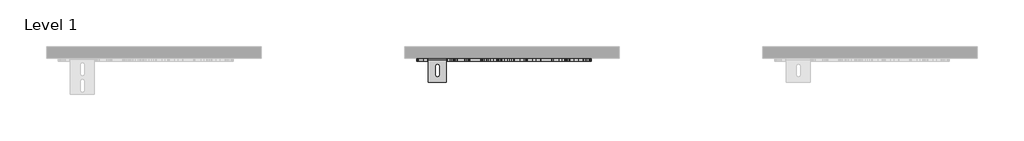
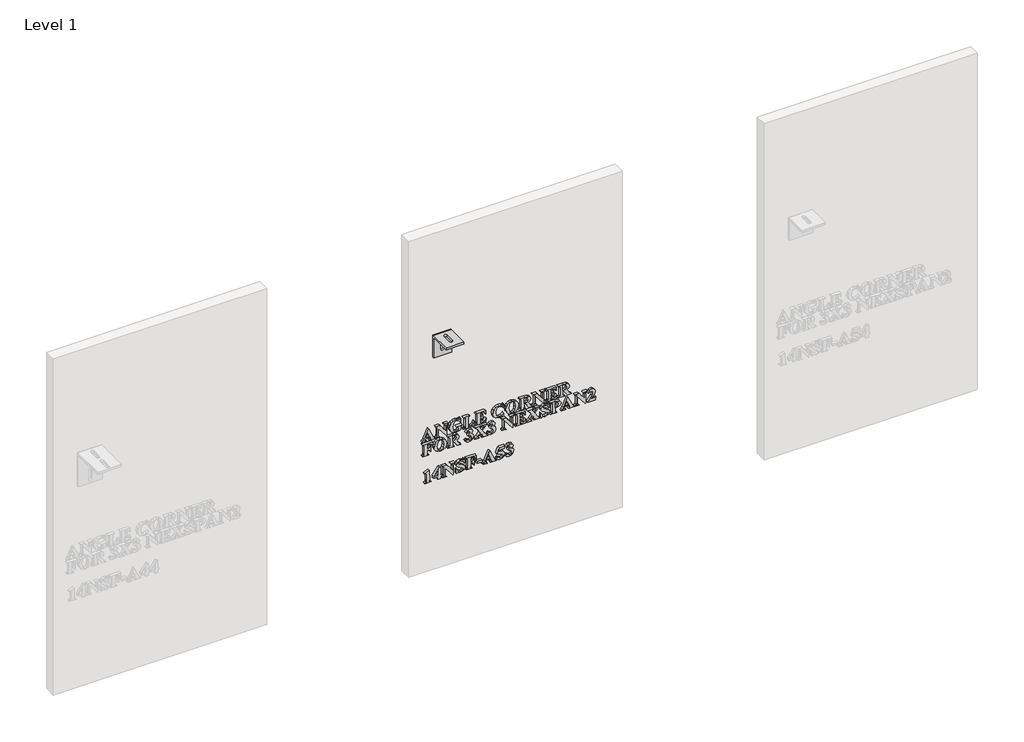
# One storey, part 9 of 21: 3 proxies.
"""IFC4 building model written with IfcOpenShell, lengths in millimetres."""

from ifc_helpers import new_model, si_unit, frame, origin, place, context, project, spatial, polyline, outline, extrude, transform, mapped, element, save
from components import generic_models_a543b304

model = new_model("IFC4")

# Units and contexts
model_context = context("Model", 3, world=origin())
ifc_project = project(units=[si_unit("LENGTHUNIT", "METRE", prefix="MILLI")], contexts=[model_context])

# Site, building, storey
site = spatial("IfcSite", under=ifc_project)
building = spatial("IfcBuilding", under=site)
storey = spatial("IfcBuildingStorey", under=building, Name="Level 1", Elevation=0.0)

# Proxies
placement = place(None, origin())
element("IfcBuildingElementProxy", 1, Name="2\"\" Arial", ObjectType="2\"\" Arial", at=placement, inside=storey, context=model_context, shape_type="SweptSolid", body=[
    extrude(outline(polyline([(615.3485426, 11534.1620487), (608.7003734, 11537.0844731), (604.559118, 11538.4695083), (602.869375, 11537.6246368), (602.0522042, 11532.3061015), (600.2793591, 11532.3061015), (600.2793591, 11557.7076479), (602.0522042, 11557.7076479), (603.4095388, 11554.0096038), (610.9025794, 11549.577491), (653.4647125, 11529.9238409), (612.066009, 11511.1012119), (604.3375124, 11506.6344732), (602.0522042, 11502.0153807), (600.2793591, 11502.0153807), (600.2793591, 11519.7853829), (602.0522042, 11519.7853829), (602.9386268, 11514.6607525), (606.0272554, 11512.8879074), (610.0300072, 11513.9682349), (615.3485426, 11516.3781962), (615.3485426, 11534.1620487)]), holes=[polyline([(618.8942328, 11532.6108092), (618.8942328, 11517.9848371), (635.2376487, 11525.3947756), (618.8942328, 11532.6108092)])]), frame((0.0, -15490.3579358, 0.0), z_axis=(0.0, 1.0, 0.0), x_axis=(0.0, 0.0, 1.0)), (0.0, 0.0, 1.0), 12.7),
    extrude(outline(polyline([(652.5782899, 11577.6798561), (652.5782899, 11559.2588873), (650.8054448, 11559.2588873), (650.2029545, 11562.9223056), (647.0519993, 11566.5718734), (609.1435847, 11566.5718734), (603.693471, 11565.0137088), (602.0522042, 11559.480493), (600.2793591, 11559.480493), (600.2793591, 11577.2089441), (602.0522042, 11576.1147663), (603.5134164, 11571.938885), (609.1435847, 11570.1175637), (642.5506348, 11570.1175637), (599.3929366, 11603.9401243), (599.3929366, 11605.5744659), (641.9412193, 11605.5744659), (647.3774826, 11606.2323577), (649.6627907, 11608.0675294), (650.8054448, 11612.6658464), (652.5782899, 11612.6658464), (652.5782899, 11594.9373952), (650.8054448, 11594.9373952), (648.5616877, 11600.7683936), (641.9412193, 11602.0287757), (621.5119494, 11602.0287757), (652.5782899, 11577.6798561)])), frame((0.0, -15490.3579358, 0.0), z_axis=(0.0, 1.0, 0.0), x_axis=(0.0, 0.0, 1.0)), (0.0, 0.0, 1.0), 12.7),
    extrude(outline(polyline([(653.4647125, 11667.6240449), (653.4647125, 11665.8511997), (650.6600161, 11664.2237833), (649.9190223, 11662.2916592), (651.2625064, 11657.9841996), (652.896848, 11652.7072153), (653.4647125, 11645.975944), (651.4564114, 11634.9285566), (645.4315081, 11625.9414092), (636.4945682, 11619.9736386), (625.7501572, 11617.9843817), (613.9773577, 11620.6020983), (606.6505212, 11626.287668), (601.3943125, 11634.6809816), (599.3929366, 11646.6546113), (600.4663389, 11657.5271379), (603.6449948, 11667.6240449), (615.3485426, 11667.6240449), (618.3402187, 11667.9703037), (620.002261, 11669.750074), (620.6670779, 11673.8290028), (622.439923, 11673.8290028), (622.439923, 11648.1227486), (620.6670779, 11649.5354846), (620.0576624, 11652.9288209), (618.6864775, 11654.7709178), (615.3485426, 11655.2141291), (603.6449948, 11655.2141291), (602.4607896, 11651.4329829), (602.0522042, 11647.8457416), (604.7114719, 11639.1269447), (613.0355337, 11633.8153345), (626.2210692, 11632.1671426), (638.3193521, 11633.6837562), (647.5090609, 11638.8499377), (650.8054448, 11647.9980954), (646.961972, 11658.5866899), (635.7362614, 11665.8511997), (635.7362614, 11667.6240449), (653.4647125, 11667.6240449)])), frame((0.0, -15490.3579358, 0.0), z_axis=(0.0, 1.0, 0.0), x_axis=(0.0, 0.0, 1.0)), (0.0, 0.0, 1.0), 12.7),
    extrude(outline(polyline([(619.7806553, 11726.1279336), (619.7806553, 11724.3550885), (610.1269597, 11720.5600919), (605.3416629, 11715.809421), (603.8250493, 11708.9396462), (603.8250493, 11704.6321866), (604.1713081, 11700.0200192), (605.7848742, 11698.2194734), (610.8333277, 11697.7624118), (643.7140644, 11697.7624118), (648.298531, 11698.1363713), (650.0436754, 11699.5491072), (650.8054448, 11702.8177904), (650.8054448, 11704.8537922), (652.5782899, 11704.8537922), (652.5782899, 11678.2611155), (650.8054448, 11678.2611155), (650.8054448, 11679.9370082), (650.0990768, 11683.2887935), (648.4439597, 11684.9439106), (643.7140644, 11685.352496), (609.1435847, 11685.352496), (604.559118, 11684.9508358), (602.8139736, 11683.4549977), (602.0522042, 11679.9370082), (602.0522042, 11678.2611155), (600.2793591, 11678.2611155), (600.2793591, 11724.3550885), (619.7806553, 11726.1279336)])), frame((0.0, -15490.3579358, 0.0), z_axis=(0.0, 1.0, 0.0), x_axis=(0.0, 0.0, 1.0)), (0.0, 0.0, 1.0), 12.7),
    extrude(outline(polyline([(649.0325997, 11750.0613426), (649.0325997, 11754.4934554), (648.3400821, 11762.5266598), (644.7320653, 11768.2191546), (636.6226839, 11771.3354839), (636.6226839, 11773.1083291), (652.5782899, 11773.1083291), (652.5782899, 11730.5600464), (650.8054448, 11730.5600464), (650.8054448, 11732.235939), (649.7805187, 11736.086337), (647.827619, 11737.4713722), (643.7140644, 11737.6514268), (609.1435847, 11737.6514268), (604.559118, 11737.2497666), (602.8139736, 11735.7539285), (602.0522042, 11732.235939), (602.0522042, 11730.5600464), (600.2793591, 11730.5600464), (600.2793591, 11774.3687111), (616.8859317, 11775.3105351), (606.4427659, 11769.1956045), (602.9386268, 11757.8729414), (602.9386268, 11754.8535645), (603.5549675, 11751.7372352), (605.1339076, 11750.4145266), (610.4039667, 11750.0613426), (625.0991907, 11750.0613426), (624.0950401, 11755.068245), (620.1753904, 11758.1014722), (612.6892749, 11759.8119907), (612.6892749, 11761.5848358), (640.1683741, 11761.5848358), (640.1683741, 11759.8119907), (630.9024884, 11757.3050769), (627.7584584, 11750.0613426), (649.0325997, 11750.0613426)])), frame((0.0, -15490.3579358, 0.0), z_axis=(0.0, 1.0, 0.0), x_axis=(0.0, 0.0, 1.0)), (0.0, 0.0, 1.0), 12.7),
    extrude(outline(polyline([(653.4647125, 11851.9999366), (653.4647125, 11850.2270915), (650.7708189, 11849.0775122), (649.9190223, 11846.986109), (651.2209554, 11842.5816969), (653.4647125, 11831.1967072), (649.8012943, 11817.394831), (639.5035572, 11807.0693933), (625.4731502, 11803.246696), (612.2460636, 11806.7162093), (602.710096, 11816.570735), (599.3929366, 11831.1828569), (601.4220132, 11842.1107849), (607.9663047, 11851.113514), (612.4676693, 11851.113514), (605.0785062, 11842.740976), (602.9386268, 11833.9944784), (605.854126, 11824.5208373), (614.4551948, 11819.1469006), (627.0797911, 11817.4294569), (639.8636664, 11819.7563161), (647.1420266, 11825.490362), (649.9190223, 11834.1052812), (646.2625292, 11844.1675623), (635.7362614, 11850.2270915), (635.7362614, 11851.9999366), (653.4647125, 11851.9999366)])), frame((0.0, -15490.3579358, 0.0), z_axis=(0.0, 1.0, 0.0), x_axis=(0.0, 0.0, 1.0)), (0.0, 0.0, 1.0), 12.7),
    extrude(outline(polyline([(653.4647125, 11887.11058), (651.8788471, 11876.5687305), (646.1794271, 11867.8239642), (637.4606302, 11861.9392957), (626.8166344, 11859.9777396), (617.1733265, 11861.4839654), (608.9358294, 11866.0026429), (601.7786598, 11875.2200524), (599.3929366, 11887.6091927), (601.8929252, 11899.9671697), (609.392891, 11909.1741915), (626.8581854, 11914.9359381), (637.4969874, 11913.0038139), (646.2002026, 11907.2074414), (651.884041, 11898.3189777), (653.4647125, 11887.11058)]), holes=[polyline([(650.8054448, 11887.5676416), (648.6863409, 11894.1811849), (641.4356814, 11898.9041551), (625.9440622, 11900.7531772), (611.8444034, 11898.938781), (603.9774032, 11893.869552), (602.0522042, 11887.4983899), (606.5120177, 11878.6757154), (626.2487699, 11874.1605005), (643.4924587, 11877.0829248), (648.9771983, 11881.5046499), (650.8054448, 11887.5676416)])]), frame((0.0, -15490.3579358, 0.0), z_axis=(0.0, 1.0, 0.0), x_axis=(0.0, 0.0, 1.0)), (0.0, 0.0, 1.0), 12.7),
    extrude(outline(polyline([(624.2127681, 11938.8693471), (624.2127681, 11942.3042345), (600.2793591, 11959.0908617), (600.2793591, 11975.2126719), (602.0522042, 11975.2126719), (603.3956884, 11971.9439887), (607.7723998, 11968.7999587), (625.4592998, 11956.3900429), (628.9911397, 11963.3429199), (638.395529, 11967.2348689), (646.5326111, 11964.4717236), (651.2902072, 11957.3387921), (652.5782899, 11943.5369159), (652.5782899, 11919.3680509), (650.8054448, 11919.3680509), (650.2029545, 11924.1533476), (648.5963136, 11925.9469683), (643.7140644, 11926.4594313), (609.1435847, 11926.4594313), (604.2751858, 11925.9469683), (602.6685449, 11924.1741232), (602.0522042, 11919.3680509), (600.2793591, 11919.3680509), (600.2793591, 11945.9607275), (602.0522042, 11945.9607275), (602.6546946, 11941.1754308), (604.2613354, 11939.3818101), (609.1435847, 11938.8693471), (624.2127681, 11938.8693471)]), holes=[polyline([(649.9190223, 11938.8693471), (649.9190223, 11942.9967521), (647.0450741, 11952.0271819), (638.160073, 11954.8249531), (631.4288018, 11953.3014143), (627.862336, 11949.1116827), (626.8720358, 11941.0715531), (626.8720358, 11938.8693471), (649.9190223, 11938.8693471)])]), frame((0.0, -15490.3579358, 0.0), z_axis=(0.0, 1.0, 0.0), x_axis=(0.0, 0.0, 1.0)), (0.0, 0.0, 1.0), 12.7),
    extrude(outline(polyline([(652.5782899, 11994.2984576), (652.5782899, 11975.8774888), (650.8054448, 11975.8774888), (650.2029545, 11979.540907), (647.0519993, 11983.1904749), (609.1435847, 11983.1904749), (603.693471, 11981.6323103), (602.0522042, 11976.0990945), (600.2793591, 11976.0990945), (600.2793591, 11993.8275456), (602.0522042, 11992.7333677), (603.5134164, 11988.5574865), (609.1435847, 11986.7361651), (642.5506348, 11986.7361651), (599.3929366, 12020.5587258), (599.3929366, 12022.1930674), (641.9412193, 12022.1930674), (647.3774826, 12022.8509591), (649.6627907, 12024.6861308), (650.8054448, 12029.2844478), (652.5782899, 12029.2844478), (652.5782899, 12011.5559967), (650.8054448, 12011.5559967), (648.5616877, 12017.3869951), (641.9412193, 12018.6473772), (621.5119494, 12018.6473772), (652.5782899, 11994.2984576)])), frame((0.0, -15490.3579358, 0.0), z_axis=(0.0, 1.0, 0.0), x_axis=(0.0, 0.0, 1.0)), (0.0, 0.0, 1.0), 12.7),
    extrude(outline(polyline([(649.0325997, 12053.2178569), (649.0325997, 12057.6499696), (648.3400821, 12065.6831741), (644.7320653, 12071.3756689), (636.6226839, 12074.4919982), (636.6226839, 12076.2648433), (652.5782899, 12076.2648433), (652.5782899, 12033.7165606), (650.8054448, 12033.7165606), (650.8054448, 12035.3924533), (649.7805187, 12039.2428513), (647.827619, 12040.6278865), (643.7140644, 12040.8079411), (609.1435847, 12040.8079411), (604.559118, 12040.4062809), (602.8139736, 12038.9104428), (602.0522042, 12035.3924533), (602.0522042, 12033.7165606), (600.2793591, 12033.7165606), (600.2793591, 12077.5252254), (616.8859317, 12078.4670494), (606.4427659, 12072.3521188), (602.9386268, 12061.0294556), (602.9386268, 12058.0100788), (603.5549675, 12054.8937495), (605.1339076, 12053.5710409), (610.4039667, 12053.2178569), (625.0991907, 12053.2178569), (624.0950401, 12058.2247593), (620.1753904, 12061.2579865), (612.6892749, 12062.968505), (612.6892749, 12064.7413501), (640.1683741, 12064.7413501), (640.1683741, 12062.968505), (630.9024884, 12060.4615912), (627.7584584, 12053.2178569), (649.0325997, 12053.2178569)])), frame((0.0, -15490.3579358, 0.0), z_axis=(0.0, 1.0, 0.0), x_axis=(0.0, 0.0, 1.0)), (0.0, 0.0, 1.0), 12.7),
    extrude(outline(polyline([(624.2127681, 12104.6303651), (624.2127681, 12108.0652525), (600.2793591, 12124.8518797), (600.2793591, 12140.9736899), (602.0522042, 12140.9736899), (603.3956884, 12137.7050068), (607.7723998, 12134.5609768), (625.4592998, 12122.151061), (628.9911397, 12129.1039379), (638.395529, 12132.9958869), (646.5326111, 12130.2327416), (651.2902072, 12123.0998101), (652.5782899, 12109.2979339), (652.5782899, 12085.1290689), (650.8054448, 12085.1290689), (650.2029545, 12089.9143657), (648.5963136, 12091.7079863), (643.7140644, 12092.2204493), (609.1435847, 12092.2204493), (604.2751858, 12091.7079863), (602.6685449, 12089.9351412), (602.0522042, 12085.1290689), (600.2793591, 12085.1290689), (600.2793591, 12111.7217456), (602.0522042, 12111.7217456), (602.6546946, 12106.9364488), (604.2613354, 12105.1428282), (609.1435847, 12104.6303651), (624.2127681, 12104.6303651)]), holes=[polyline([(649.9190223, 12104.6303651), (649.9190223, 12108.7577702), (647.0450741, 12117.7882), (638.160073, 12120.5859711), (631.4288018, 12119.0624324), (627.862336, 12114.8727008), (626.8720358, 12106.8325712), (626.8720358, 12104.6303651), (649.9190223, 12104.6303651)])]), frame((0.0, -15490.3579358, 0.0), z_axis=(0.0, 1.0, 0.0), x_axis=(0.0, 0.0, 1.0)), (0.0, 0.0, 1.0), 12.7),
    extrude(outline(polyline([(584.9362614, 11523.1371682), (584.9362614, 11527.569281), (584.3406962, 11536.1287988), (580.6288018, 11542.5415119), (572.5263456, 11545.2977321), (572.5263456, 11547.0705772), (588.4819516, 11547.0705772), (588.4819516, 11503.6358719), (586.7091065, 11503.6358719), (586.7091065, 11505.3117646), (586.0027385, 11508.6635499), (584.3476214, 11510.318667), (579.617726, 11510.7272524), (545.0472463, 11510.7272524), (540.4627797, 11510.3255922), (538.7176353, 11508.8297541), (537.9558659, 11505.3117646), (537.9558659, 11503.6358719), (536.1830208, 11503.6358719), (536.1830208, 11530.2285486), (537.9558659, 11530.2285486), (537.9558659, 11528.5665063), (538.6622338, 11525.2216462), (540.317351, 11523.5596039), (545.0472463, 11523.1371682), (561.0028523, 11523.1371682), (561.0028523, 11524.9100133), (558.5859658, 11531.8213392), (548.5929366, 11535.547084), (548.5929366, 11537.3199291), (576.9584584, 11537.3199291), (576.9584584, 11535.547084), (569.5762205, 11533.6911367), (565.6981218, 11530.2077731), (564.5485426, 11524.9100133), (564.5485426, 11523.1371682), (584.9362614, 11523.1371682)])), frame((0.0, -15490.3579358, 0.0), z_axis=(0.0, 1.0, 0.0), x_axis=(0.0, 0.0, 1.0)), (0.0, 0.0, 1.0), 12.7),
    extrude(outline(polyline([(589.3683741, 11579.521953), (587.7825088, 11568.9801035), (582.0830888, 11560.2353372), (573.3642919, 11554.3506687), (562.720296, 11552.3891125), (553.0769882, 11553.8953384), (544.839491, 11558.4140158), (537.6823214, 11567.6314254), (535.2965982, 11580.0205657), (537.7965868, 11592.3785426), (545.2965527, 11601.5855644), (562.7618471, 11607.347311), (573.4006491, 11605.4151869), (582.1038643, 11599.6188144), (587.7877027, 11590.7303507), (589.3683741, 11579.521953)]), holes=[polyline([(586.7091065, 11579.9790146), (584.5900026, 11586.5925579), (577.339343, 11591.3155281), (561.8477238, 11593.1645501), (547.7480651, 11591.350154), (539.8810649, 11586.280925), (537.9558659, 11579.9097628), (542.4156794, 11571.0870883), (562.1524316, 11566.5718734), (579.3961204, 11569.4942978), (584.88086, 11573.9160228), (586.7091065, 11579.9790146)])]), frame((0.0, -15490.3579358, 0.0), z_axis=(0.0, 1.0, 0.0), x_axis=(0.0, 0.0, 1.0)), (0.0, 0.0, 1.0), 12.7),
    extrude(outline(polyline([(560.1164298, 11631.28072), (560.1164298, 11634.7156075), (536.1830208, 11651.5022346), (536.1830208, 11667.6240449), (537.9558659, 11667.6240449), (539.2993501, 11664.3553617), (543.6760614, 11661.2113317), (561.3629615, 11648.8014159), (564.8948014, 11655.7542928), (574.2991907, 11659.6462418), (582.4362727, 11656.8830965), (587.1938688, 11649.750165), (588.4819516, 11635.9482888), (588.4819516, 11611.7794238), (586.7091065, 11611.7794238), (586.1066161, 11616.5647206), (584.4999753, 11618.3583412), (579.617726, 11618.8708043), (545.0472463, 11618.8708043), (540.1788474, 11618.3583412), (538.5722066, 11616.5854961), (537.9558659, 11611.7794238), (536.1830208, 11611.7794238), (536.1830208, 11638.3721005), (537.9558659, 11638.3721005), (538.5583562, 11633.5868037), (540.1649971, 11631.7931831), (545.0472463, 11631.28072), (560.1164298, 11631.28072)]), holes=[polyline([(585.8226839, 11631.28072), (585.8226839, 11635.4081251), (582.9487358, 11644.4385549), (574.0637347, 11647.2363261), (567.3324634, 11645.7127873), (563.7659977, 11641.5230557), (562.7756975, 11633.4829261), (562.7756975, 11631.28072), (585.8226839, 11631.28072)])]), frame((0.0, -15490.3579358, 0.0), z_axis=(0.0, 1.0, 0.0), x_axis=(0.0, 0.0, 1.0)), (0.0, 0.0, 1.0), 12.7),
    extrude(outline(polyline([(564.5485426, 11696.8759892), (558.3782106, 11708.7665168), (548.6206373, 11712.8315952), (542.8796662, 11710.7263417), (540.6151335, 11705.6848134), (543.7314628, 11698.4272287), (547.1524999, 11693.9258641), (547.706514, 11691.4605014), (546.2176011, 11688.4341994), (542.6234346, 11687.1253411), (537.9004645, 11689.3829485), (535.2965982, 11699.3275016), (536.8114805, 11708.5033601), (541.3561274, 11715.6155161), (548.0648919, 11720.1757446), (556.0721269, 11721.6958208), (564.6177943, 11718.8564985), (570.3518402, 11710.6155388), (574.5554222, 11717.0005513), (579.5207736, 11719.0365531), (586.4182491, 11715.4008356), (589.3683741, 11706.1695757), (586.9237869, 11696.2180975), (579.105263, 11689.7846088), (584.0498388, 11699.1751477), (581.6883537, 11705.1238741), (576.0304847, 11707.5130599), (571.3282901, 11706.2319023), (567.8795523, 11703.1917499), (564.5485426, 11696.8759892)])), frame((0.0, -15490.3579358, 0.0), z_axis=(0.0, 1.0, 0.0), x_axis=(0.0, 0.0, 1.0)), (0.0, 0.0, 1.0), 12.7),
    extrude(outline(polyline([(566.5845444, 11759.2302759), (578.4681468, 11768.7177673), (584.2021927, 11773.7315949), (586.1481672, 11776.6955703), (586.7091065, 11780.3520634), (588.4819516, 11780.3520634), (588.4819516, 11760.9200189), (586.7091065, 11760.9200189), (586.2243441, 11764.382607), (584.88086, 11766.1000507), (583.0110624, 11766.6956159), (575.9473826, 11762.457408), (569.5069687, 11757.3050769), (579.146814, 11750.9754659), (584.3406962, 11748.0530415), (586.0304392, 11748.939464), (586.7091065, 11753.3577265), (588.4819516, 11753.3577265), (588.4819516, 11727.8176766), (586.7091065, 11727.8176766), (585.9334867, 11730.5877471), (584.2021927, 11732.6237489), (579.0775623, 11736.363344), (559.4377625, 11749.2718725), (546.8616425, 11739.2026663), (539.7425613, 11732.000483), (537.9558659, 11726.6126959), (536.1830208, 11726.6126959), (536.1830208, 11746.9588636), (537.9558659, 11746.9588636), (538.1774715, 11743.6486294), (539.4655543, 11740.9131848), (541.4046036, 11739.9921364), (547.000146, 11743.5655273), (556.5291885, 11751.1832211), (545.781315, 11758.2469009), (540.4627797, 11761.2108763), (538.8422884, 11760.3244538), (537.9558659, 11756.404804), (536.1830208, 11756.404804), (536.1830208, 11781.6955476), (537.9558659, 11781.6955476), (539.2993501, 11778.0944559), (545.6428115, 11772.9836759), (566.5845444, 11759.2302759)])), frame((0.0, -15490.3579358, 0.0), z_axis=(0.0, 1.0, 0.0), x_axis=(0.0, 0.0, 1.0)), (0.0, 0.0, 1.0), 12.7),
    extrude(outline(polyline([(564.5485426, 11792.6096253), (558.3782106, 11804.5001529), (548.6206373, 11808.5652313), (542.8796662, 11806.4599777), (540.6151335, 11801.4184495), (543.7314628, 11794.1608648), (547.1524999, 11789.6595002), (547.706514, 11787.1941375), (546.2176011, 11784.1678355), (542.6234346, 11782.8589772), (537.9004645, 11785.1165846), (535.2965982, 11795.0611377), (536.8114805, 11804.2369962), (541.3561274, 11811.3491522), (548.0648919, 11815.9093807), (556.0721269, 11817.4294569), (564.6177943, 11814.5901346), (570.3518402, 11806.3491749), (574.5554222, 11812.7341874), (579.5207736, 11814.7701892), (586.4182491, 11811.1344717), (589.3683741, 11801.9032118), (586.9237869, 11791.9517336), (579.105263, 11785.5182448), (584.0498388, 11794.9087838), (581.6883537, 11800.8575102), (576.0304847, 11803.246696), (571.3282901, 11801.9655384), (567.8795523, 11798.925386), (564.5485426, 11792.6096253)])), frame((0.0, -15490.3579358, 0.0), z_axis=(0.0, 1.0, 0.0), x_axis=(0.0, 0.0, 1.0)), (0.0, 0.0, 1.0), 12.7),
    extrude(outline(polyline([(588.4819516, 11861.3350741), (588.4819516, 11842.9141054), (586.7091065, 11842.9141054), (586.1066161, 11846.5775236), (582.955661, 11850.2270915), (545.0472463, 11850.2270915), (539.5971326, 11848.6689268), (537.9558659, 11843.135711), (536.1830208, 11843.135711), (536.1830208, 11860.8641621), (537.9558659, 11859.7699843), (539.4170781, 11855.594103), (545.0472463, 11853.7727817), (578.4542964, 11853.7727817), (535.2965982, 11887.5953424), (535.2965982, 11889.2296839), (577.8448809, 11889.2296839), (583.2811442, 11889.8875757), (585.5664524, 11891.7227474), (586.7091065, 11896.3210644), (588.4819516, 11896.3210644), (588.4819516, 11878.5926133), (586.7091065, 11878.5926133), (584.4653494, 11884.4236116), (577.8448809, 11885.6839937), (557.4156111, 11885.6839937), (588.4819516, 11861.3350741)])), frame((0.0, -15490.3579358, 0.0), z_axis=(0.0, 1.0, 0.0), x_axis=(0.0, 0.0, 1.0)), (0.0, 0.0, 1.0), 12.7),
    extrude(outline(polyline([(584.9362614, 11920.2544734), (584.9362614, 11924.6865862), (584.2437437, 11932.7197906), (580.6357269, 11938.4122855), (572.5263456, 11941.5286148), (572.5263456, 11943.3014599), (588.4819516, 11943.3014599), (588.4819516, 11900.7531772), (586.7091065, 11900.7531772), (586.7091065, 11902.4290698), (585.6841804, 11906.2794678), (583.7312807, 11907.664503), (579.617726, 11907.8445576), (545.0472463, 11907.8445576), (540.4627797, 11907.4428974), (538.7176353, 11905.9470593), (537.9558659, 11902.4290698), (537.9558659, 11900.7531772), (536.1830208, 11900.7531772), (536.1830208, 11944.561842), (552.7895933, 11945.5036659), (542.3464276, 11939.3887353), (538.8422884, 11928.0660722), (538.8422884, 11925.0466954), (539.4586291, 11921.9303661), (541.0375693, 11920.6076574), (546.3076284, 11920.2544734), (561.0028523, 11920.2544734), (559.9987018, 11925.2613758), (556.079052, 11928.294603), (548.5929366, 11930.0051215), (548.5929366, 11931.7779666), (576.0720358, 11931.7779666), (576.0720358, 11930.0051215), (566.80615, 11927.4982077), (563.66212, 11920.2544734), (584.9362614, 11920.2544734)])), frame((0.0, -15490.3579358, 0.0), z_axis=(0.0, 1.0, 0.0), x_axis=(0.0, 0.0, 1.0)), (0.0, 0.0, 1.0), 12.7),
    extrude(outline(polyline([(566.5845444, 11983.4951827), (578.4681468, 11992.9826741), (584.2021927, 11997.9965017), (586.1481672, 12000.9604771), (586.7091065, 12004.6169701), (588.4819516, 12004.6169701), (588.4819516, 11985.1849257), (586.7091065, 11985.1849257), (586.2243441, 11988.6475138), (584.88086, 11990.3649575), (583.0110624, 11990.9605226), (575.9473826, 11986.7223148), (569.5069687, 11981.5699837), (579.146814, 11975.2403726), (584.3406962, 11972.3179482), (586.0304392, 11973.2043708), (586.7091065, 11977.6226332), (588.4819516, 11977.6226332), (588.4819516, 11952.0825833), (586.7091065, 11952.0825833), (585.9334867, 11954.8526538), (584.2021927, 11956.8886556), (579.0775623, 11960.6282508), (559.4377625, 11973.5367793), (546.8616425, 11963.467573), (539.7425613, 11956.2653898), (537.9558659, 11950.8776027), (536.1830208, 11950.8776027), (536.1830208, 11971.2237704), (537.9558659, 11971.2237704), (538.1774715, 11967.9135362), (539.4655543, 11965.1780916), (541.4046036, 11964.2570431), (547.000146, 11967.8304341), (556.5291885, 11975.4481279), (545.781315, 11982.5118076), (540.4627797, 11985.4757831), (538.8422884, 11984.5893605), (537.9558659, 11980.6697108), (536.1830208, 11980.6697108), (536.1830208, 12005.9604543), (537.9558659, 12005.9604543), (539.2993501, 12002.3593627), (545.6428115, 11997.2485826), (566.5845444, 11983.4951827)])), frame((0.0, -15490.3579358, 0.0), z_axis=(0.0, 1.0, 0.0), x_axis=(0.0, 0.0, 1.0)), (0.0, 0.0, 1.0), 12.7),
    extrude(outline(polyline([(589.3683741, 12045.2400539), (589.3683741, 12043.4672087), (586.4320994, 12042.3591806), (585.8226839, 12040.724839), (587.0622905, 12036.9644683), (588.7589586, 12032.4146275), (589.3683741, 12027.3315481), (585.040139, 12015.3994695), (574.548497, 12010.6695742), (567.9418789, 12012.3039157), (562.5056156, 12016.9853349), (556.5984403, 12027.8301608), (552.5541373, 12035.5863582), (549.2854542, 12038.8481162), (545.7259136, 12039.9215185), (540.2896503, 12037.2553257), (537.9558659, 12030.0877683), (542.2702507, 12019.2360171), (554.7978944, 12012.4424193), (554.7978944, 12010.6695742), (535.2965982, 12010.6695742), (535.2965982, 12012.4424193), (537.9697162, 12014.2637406), (538.8422884, 12016.4036201), (537.9835666, 12019.464548), (535.8575375, 12025.0116141), (535.2965982, 12029.6999584), (539.9780173, 12042.7608408), (551.1691021, 12047.8993215), (560.2687837, 12045.2816049), (568.7174987, 12032.5946821), (573.2050128, 12023.4534495), (576.7645534, 12019.5337997), (579.8254813, 12018.6473772), (584.6246284, 12021.0711888), (586.7091065, 12027.6501063), (582.5747763, 12037.6639111), (571.639923, 12043.4672087), (571.639923, 12045.2400539), (589.3683741, 12045.2400539)])), frame((0.0, -15490.3579358, 0.0), z_axis=(0.0, 1.0, 0.0), x_axis=(0.0, 0.0, 1.0)), (0.0, 0.0, 1.0), 12.7),
    extrude(outline(polyline([(560.1164298, 12070.946308), (561.030553, 12084.2010953), (565.9266526, 12093.3354027), (574.5623474, 12096.6525621), (584.5069004, 12091.6041087), (588.4819516, 12074.9490598), (588.4819516, 12051.4450118), (586.7091065, 12051.4450118), (586.1066161, 12056.2303085), (584.4999753, 12058.0239292), (579.617726, 12058.5363922), (545.0472463, 12058.5363922), (540.1788474, 12058.0239292), (538.5722066, 12056.2510841), (537.9558659, 12051.4450118), (536.1830208, 12051.4450118), (536.1830208, 12078.0376884), (537.9558659, 12078.0376884), (538.5583562, 12073.266242), (540.1649971, 12071.458771), (545.0472463, 12070.946308), (560.1164298, 12070.946308)]), holes=[polyline([(585.8226839, 12070.946308), (585.8226839, 12072.7330035), (583.0664638, 12081.3548479), (574.3822928, 12084.2426463), (565.5457679, 12081.3548479), (562.6925953, 12073.1346637), (562.7756975, 12070.946308), (585.8226839, 12070.946308)])]), frame((0.0, -15490.3579358, 0.0), z_axis=(0.0, 1.0, 0.0), x_axis=(0.0, 0.0, 1.0)), (0.0, 0.0, 1.0), 12.7),
    extrude(outline(polyline([(551.2522042, 12130.7244291), (544.604035, 12133.6468535), (540.4627797, 12135.0318887), (538.7730367, 12134.1870172), (537.9558659, 12128.8684819), (536.1830208, 12128.8684819), (536.1830208, 12154.2700283), (537.9558659, 12154.2700283), (539.3132004, 12150.5719842), (546.8062411, 12146.1398714), (589.3683741, 12126.4862213), (547.9696707, 12107.6635923), (540.241174, 12103.1968537), (537.9558659, 12098.5777611), (536.1830208, 12098.5777611), (536.1830208, 12116.3477633), (537.9558659, 12116.3477633), (538.8422884, 12111.2231329), (541.930917, 12109.4502878), (545.9336689, 12110.5306153), (551.2522042, 12112.9405766), (551.2522042, 12130.7244291)]), holes=[polyline([(554.7978944, 12129.1731897), (554.7978944, 12114.5472175), (571.1413103, 12121.957156), (554.7978944, 12129.1731897)])]), frame((0.0, -15490.3579358, 0.0), z_axis=(0.0, 1.0, 0.0), x_axis=(0.0, 0.0, 1.0)), (0.0, 0.0, 1.0), 12.7),
    extrude(outline(polyline([(588.4819516, 12174.2422365), (588.4819516, 12155.8212678), (586.7091065, 12155.8212678), (586.1066161, 12159.484686), (582.955661, 12163.1342539), (545.0472463, 12163.1342539), (539.5971326, 12161.5760892), (537.9558659, 12156.0428734), (536.1830208, 12156.0428734), (536.1830208, 12173.7713245), (537.9558659, 12172.6771467), (539.4170781, 12168.5012654), (545.0472463, 12166.6799441), (578.4542964, 12166.6799441), (535.2965982, 12200.5025047), (535.2965982, 12202.1368463), (577.8448809, 12202.1368463), (583.2811442, 12202.7947381), (585.5664524, 12204.6299098), (586.7091065, 12209.2282268), (588.4819516, 12209.2282268), (588.4819516, 12191.4997757), (586.7091065, 12191.4997757), (584.4653494, 12197.330774), (577.8448809, 12198.5911561), (557.4156111, 12198.5911561), (588.4819516, 12174.2422365)])), frame((0.0, -15490.3579358, 0.0), z_axis=(0.0, 1.0, 0.0), x_axis=(0.0, 0.0, 1.0)), (0.0, 0.0, 1.0), 12.7),
    extrude(outline(polyline([(536.1830208, 12243.3139441), (551.2522042, 12244.9344354), (548.1635756, 12242.836107), (547.1247992, 12240.8001052), (546.8200914, 12235.446944), (546.8200914, 12224.2835599), (566.3906394, 12241.0009353), (576.6260499, 12243.7987065), (582.5609259, 12241.9081334), (587.5470528, 12236.6796253), (589.3683741, 12229.2973875), (585.864235, 12219.3043582), (574.548497, 12214.2836054), (579.0152357, 12218.4525615), (580.5041486, 12224.0342535), (577.8241054, 12230.5092933), (571.0997593, 12233.1616358), (559.7286199, 12230.0591569), (536.1830208, 12211.8874945), (536.1830208, 12243.3139441)])), frame((0.0, -15490.3579358, 0.0), z_axis=(0.0, 1.0, 0.0), x_axis=(0.0, 0.0, 1.0)), (0.0, 0.0, 1.0), 12.7),
])
element("IfcBuildingElementProxy", 2, Name="2\"\" Arial", ObjectType="2\"\" Arial", at=placement, inside=storey, context=model_context, shape_type="SweptSolid", body=[
    extrude(outline(polyline([(463.8692305, 11532.4026674), (455.0050049, 11512.6451396), (453.2321598, 11513.3099565), (454.4648412, 11517.8667225), (453.827725, 11519.9442753), (452.3111114, 11521.1769567), (447.9136245, 11521.5093652), (421.3209478, 11521.5093652), (415.2544934, 11520.9899769), (413.2046413, 11519.0024514), (412.4567222, 11512.6451396), (410.6838771, 11512.6451396), (410.6838771, 11541.0106614), (412.4567222, 11539.77798), (413.273893, 11535.3043162), (415.3791466, 11533.4691445), (421.3209478, 11533.0328584), (463.8692305, 11532.4026674)])), frame((0.0, -15490.3579358, 0.0), z_axis=(0.0, 1.0, 0.0), x_axis=(0.0, 0.0, 1.0)), (0.0, 0.0, 1.0), 12.7),
    extrude(outline(polyline([(430.1851733, 11549.874887), (422.2073703, 11549.874887), (422.2073703, 11568.4897607), (410.6838771, 11568.4897607), (410.6838771, 11580.0132539), (422.2073703, 11580.0132539), (422.2073703, 11584.4453667), (430.1851733, 11584.4453667), (430.1851733, 11580.0132539), (463.8692305, 11580.0132539), (463.8692305, 11574.9024738), (430.1851733, 11549.874887)]), holes=[polyline([(430.1851733, 11552.5618553), (451.6116686, 11568.4897607), (430.1851733, 11568.4897607), (430.1851733, 11552.5618553)])]), frame((0.0, -15490.3579358, 0.0), z_axis=(0.0, 1.0, 0.0), x_axis=(0.0, 0.0, 1.0)), (0.0, 0.0, 1.0), 12.7),
    extrude(outline(polyline([(462.9828079, 11607.0768426), (462.9828079, 11588.6558738), (461.2099628, 11588.6558738), (460.6074725, 11592.319292), (457.4565173, 11595.9688599), (419.5481027, 11595.9688599), (414.097989, 11594.4106952), (412.4567222, 11588.8774794), (410.6838771, 11588.8774794), (410.6838771, 11606.6059306), (412.4567222, 11605.5117527), (413.9179344, 11601.3358715), (419.5481027, 11599.5145501), (452.9551528, 11599.5145501), (409.7974546, 11633.3371108), (409.7974546, 11634.9714524), (452.3457373, 11634.9714524), (457.7820006, 11635.6293441), (460.0673087, 11637.4645158), (461.2099628, 11642.0628328), (462.9828079, 11642.0628328), (462.9828079, 11624.3343817), (461.2099628, 11624.3343817), (458.9662057, 11630.1653801), (452.3457373, 11631.4257622), (431.9164674, 11631.4257622), (462.9828079, 11607.0768426)])), frame((0.0, -15490.3579358, 0.0), z_axis=(0.0, 1.0, 0.0), x_axis=(0.0, 0.0, 1.0)), (0.0, 0.0, 1.0), 12.7),
    extrude(outline(polyline([(463.8692305, 11682.8382704), (463.8692305, 11681.0654253), (460.9329558, 11679.9573971), (460.3235403, 11678.3230555), (461.5631468, 11674.5626848), (463.259815, 11670.0128441), (463.8692305, 11664.9297647), (459.5409954, 11652.9976861), (449.0493534, 11648.2677907), (442.4427353, 11649.9021323), (437.0064719, 11654.5835514), (431.0992966, 11665.4283774), (427.0549937, 11673.1845748), (423.7863105, 11676.4463328), (420.2267699, 11677.5197351), (414.7905066, 11674.8535422), (412.4567222, 11667.6859848), (416.771107, 11656.8342337), (429.2987508, 11650.0406358), (429.2987508, 11648.2677907), (409.7974546, 11648.2677907), (409.7974546, 11650.0406358), (412.4705726, 11651.8619572), (413.3431448, 11654.0018366), (412.4844229, 11657.0627645), (410.3583938, 11662.6098307), (409.7974546, 11667.298175), (414.4788737, 11680.3590573), (425.6699585, 11685.4975381), (434.76964, 11682.8798215), (443.218355, 11670.1928986), (447.7058692, 11661.051666), (451.2654098, 11657.1320163), (454.3263377, 11656.2455937), (459.1254848, 11658.6694054), (461.2099628, 11665.2483228), (457.0756326, 11675.2621276), (446.1407794, 11681.0654253), (446.1407794, 11682.8382704), (463.8692305, 11682.8382704)])), frame((0.0, -15490.3579358, 0.0), z_axis=(0.0, 1.0, 0.0), x_axis=(0.0, 0.0, 1.0)), (0.0, 0.0, 1.0), 12.7),
    extrude(outline(polyline([(459.4371177, 11709.4309471), (459.4371177, 11713.8630599), (458.8415526, 11722.4225777), (455.1296581, 11728.8352909), (447.0272019, 11731.591511), (447.0272019, 11733.3643561), (462.9828079, 11733.3643561), (462.9828079, 11689.9296509), (461.2099628, 11689.9296509), (461.2099628, 11691.6055435), (460.5035948, 11694.9573288), (458.8484777, 11696.6124459), (454.1185824, 11697.0210313), (419.5481027, 11697.0210313), (414.963636, 11696.6193711), (413.2184916, 11695.123533), (412.4567222, 11691.6055435), (412.4567222, 11689.9296509), (410.6838771, 11689.9296509), (410.6838771, 11716.5223276), (412.4567222, 11716.5223276), (412.4567222, 11714.8602853), (413.1630902, 11711.5154252), (414.8182073, 11709.8533829), (419.5481027, 11709.4309471), (435.5037087, 11709.4309471), (435.5037087, 11711.2037922), (433.0868222, 11718.1151181), (423.0937929, 11721.8408629), (423.0937929, 11723.613708), (451.4593147, 11723.613708), (451.4593147, 11721.8408629), (444.0770768, 11719.9849157), (440.1989782, 11716.501552), (439.0493989, 11711.2037922), (439.0493989, 11709.4309471), (459.4371177, 11709.4309471)])), frame((0.0, -15490.3579358, 0.0), z_axis=(0.0, 1.0, 0.0), x_axis=(0.0, 0.0, 1.0)), (0.0, 0.0, 1.0), 12.7),
    extrude(outline(polyline([(11759.0706103, -15490.3579358), (11736.9100464, -15490.3579358), (11736.9100464, -15477.6579358), (11759.0706103, -15477.6579358), (11759.0706103, -15490.3579358)])), frame((0.0, 0.0, 424.866638), z_axis=(0.0, 0.0, 1.0), x_axis=(1.0, 0.0, 0.0)), (0.0, 0.0, 1.0), 7.977803),
    extrude(outline(polyline([(425.7530606, 11794.9153224), (419.1048914, 11797.8377468), (414.963636, 11799.222782), (413.273893, 11798.3779105), (412.4567222, 11793.0593752), (410.6838771, 11793.0593752), (410.6838771, 11818.4609215), (412.4567222, 11818.4609215), (413.8140568, 11814.7628774), (421.3070974, 11810.3307647), (463.8692305, 11790.6771145), (422.470527, 11771.8544856), (414.7420304, 11767.3877469), (412.4567222, 11762.7686544), (410.6838771, 11762.7686544), (410.6838771, 11780.5386566), (412.4567222, 11780.5386566), (413.3431448, 11775.4140261), (416.4317734, 11773.641181), (420.4345252, 11774.7215085), (425.7530606, 11777.1314699), (425.7530606, 11794.9153224)]), holes=[polyline([(429.2987508, 11793.3640829), (429.2987508, 11778.7381107), (445.6421667, 11786.1480493), (429.2987508, 11793.3640829)])]), frame((0.0, -15490.3579358, 0.0), z_axis=(0.0, 1.0, 0.0), x_axis=(0.0, 0.0, 1.0)), (0.0, 0.0, 1.0), 12.7),
    extrude(outline(polyline([(462.9828079, 11830.8708373), (436.3901312, 11821.1201892), (436.4316823, 11824.2919199), (432.2073248, 11841.7018129), (427.3527763, 11846.8749196), (421.2378457, 11848.5992885), (415.6630788, 11846.3278307), (413.3431448, 11840.8153904), (413.8417575, 11838.0591702), (416.2655691, 11833.9040645), (419.7697083, 11828.5024271), (420.4345252, 11825.3860978), (419.1395173, 11822.4013468), (416.1547663, 11821.1201892), (412.2351166, 11823.5717016), (409.7974546, 11833.6409078), (412.1104634, 11844.8112171), (419.0633403, 11852.7959452), (428.5646821, 11855.6906689), (435.5210216, 11854.142892), (441.2377546, 11849.4995614), (445.9953507, 11840.3721791), (447.9136245, 11828.0315151), (452.3457373, 11829.6520063), (452.3457373, 11852.1449787), (462.9828079, 11855.6906689), (462.9828079, 11830.8708373)])), frame((0.0, -15490.3579358, 0.0), z_axis=(0.0, 1.0, 0.0), x_axis=(0.0, 0.0, 1.0)), (0.0, 0.0, 1.0), 12.7),
    extrude(outline(polyline([(439.0493989, 11868.9870073), (432.8790669, 11880.8775348), (423.1214936, 11884.9426133), (417.3805225, 11882.8373597), (415.1159899, 11877.7958314), (418.2323192, 11870.5382467), (421.6533562, 11866.0368822), (422.2073703, 11863.5715194), (420.7184575, 11860.5452174), (417.124291, 11859.2363591), (412.4013208, 11861.4939666), (409.7974546, 11871.4385196), (411.3123369, 11880.6143781), (415.8569837, 11887.7265341), (422.5657482, 11892.2867626), (430.5729832, 11893.8068388), (439.1186507, 11890.9675166), (444.8526966, 11882.7265569), (449.0562786, 11889.1115694), (454.0216299, 11891.1475712), (460.9191054, 11887.5118536), (463.8692305, 11878.2805937), (461.4246433, 11868.3291155), (453.6061193, 11861.8956268), (458.5506952, 11871.2861658), (456.1892101, 11877.2348921), (450.5313411, 11879.6240779), (445.8291464, 11878.3429203), (442.3804087, 11875.302768), (439.0493989, 11868.9870073)])), frame((0.0, -15490.3579358, 0.0), z_axis=(0.0, 1.0, 0.0), x_axis=(0.0, 0.0, 1.0)), (0.0, 0.0, 1.0), 12.7),
])
generic_models_shape = generic_models_a543b304(model_context)
element("IfcBuildingElementProxy", 3, Name="14NSF-A53 : 14NSF-A53", ObjectType="14NSF-A53 : 14NSF-A53", at=placement, inside=storey, context=model_context, shape_type="MappedRepresentation", body=[
    mapped(generic_models_shape, transform((11590.880478, -15477.6579358, 1066.8), x_axis=(1.0, 0.0, 0.0), y_axis=(0.0, 0.0, 1.0), z_axis=(0.0, -1.0, 0.0))),
])

save(model, "model.ifc")
